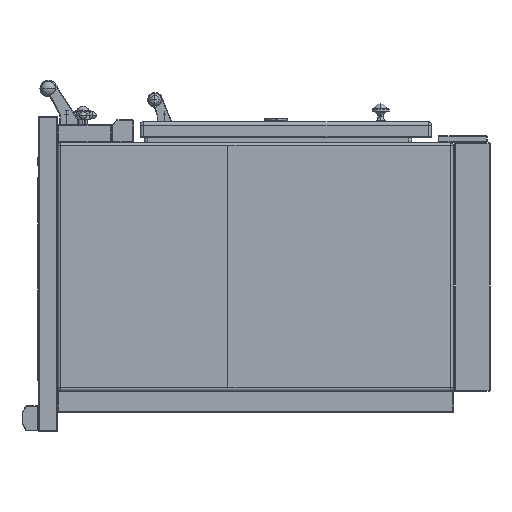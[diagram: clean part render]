
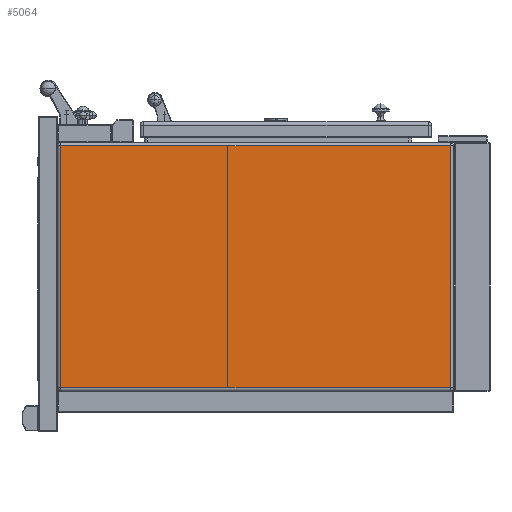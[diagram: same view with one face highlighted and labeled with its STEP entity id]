
A CAD part, left-side view. The second image highlights one B-rep face of the part: STEP entity #5064.
In plain terms, the highlighted planar face has unit normal (-1, 0, 0) as drawn and (1, 0, 0) by its records, which use the part's own axes.
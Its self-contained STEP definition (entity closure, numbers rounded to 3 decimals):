
#927=DIRECTION('',(0.,-1.,0.));
#928=VECTOR('',#927,801.);
#929=CARTESIAN_POINT('',(950.,883.,-249.));
#930=LINE('',#929,#928);
#931=DIRECTION('',(0.,0.,1.));
#932=VECTOR('',#931,498.);
#933=CARTESIAN_POINT('',(950.,82.,-249.));
#934=LINE('',#933,#932);
#935=DIRECTION('',(0.,1.,0.));
#936=VECTOR('',#935,801.);
#937=CARTESIAN_POINT('',(950.,82.,249.));
#938=LINE('',#937,#936);
#939=DIRECTION('',(0.,0.,-1.));
#940=VECTOR('',#939,498.);
#941=CARTESIAN_POINT('',(950.,883.,249.));
#942=LINE('',#941,#940);
#3185=CARTESIAN_POINT('',(950.,883.,-249.));
#3186=CARTESIAN_POINT('',(950.,82.,-249.));
#3187=VERTEX_POINT('',#3185);
#3188=VERTEX_POINT('',#3186);
#3207=CARTESIAN_POINT('',(950.,82.,249.));
#3208=VERTEX_POINT('',#3207);
#3213=CARTESIAN_POINT('',(950.,883.,249.));
#3214=VERTEX_POINT('',#3213);
#5052=CARTESIAN_POINT('',(950.,0.,0.));
#5053=DIRECTION('',(-1.,0.,0.));
#5054=DIRECTION('',(0.,0.,1.));
#5055=AXIS2_PLACEMENT_3D('',#5052,#5053,#5054);
#5056=PLANE('',#5055);
#5057=ORIENTED_EDGE('',*,*,#4477,.T.);
#5058=ORIENTED_EDGE('',*,*,#4520,.T.);
#5060=ORIENTED_EDGE('',*,*,#5059,.T.);
#5061=ORIENTED_EDGE('',*,*,#5020,.T.);
#5062=EDGE_LOOP('',(#5057,#5058,#5060,#5061));
#5063=FACE_OUTER_BOUND('',#5062,.F.);
#4477=EDGE_CURVE('',#3187,#3188,#930,.T.);
#4520=EDGE_CURVE('',#3188,#3208,#934,.T.);
#5020=EDGE_CURVE('',#3214,#3187,#942,.T.);
#5059=EDGE_CURVE('',#3208,#3214,#938,.T.);
#5064=ADVANCED_FACE('',(#5063),#5056,.F.);
